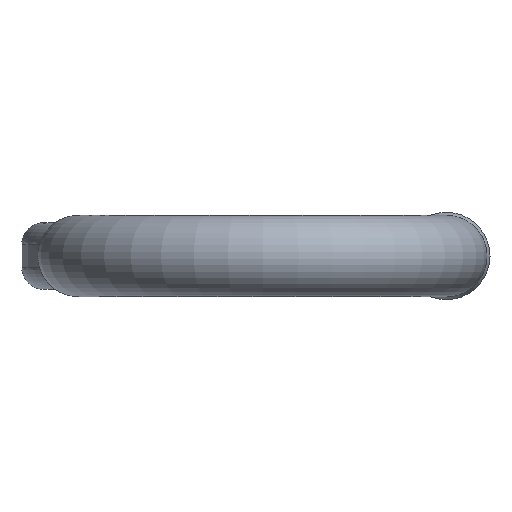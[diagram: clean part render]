
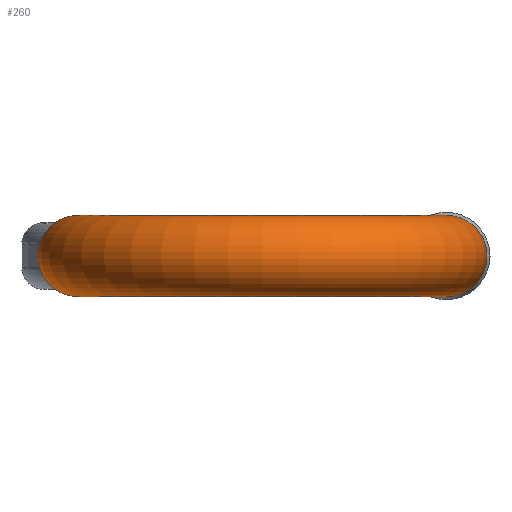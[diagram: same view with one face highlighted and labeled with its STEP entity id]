
A CAD part, front view. The second image highlights one B-rep face of the part: STEP entity #260.
In plain terms, the highlighted toroidal (fillet/blend) face has major radius 38.5 mm and minor radius 8.5 mm.
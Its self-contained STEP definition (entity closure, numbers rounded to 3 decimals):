
#226=TOROIDAL_SURFACE('',#2723,38.5,8.5);
#260=ADVANCED_FACE('',(#843,#844),#226,.T.);
#482=CIRCLE('',#2711,8.5);
#483=CIRCLE('',#2717,8.5);
#843=FACE_BOUND('',#878,.T.);
#844=FACE_BOUND('',#879,.T.);
#878=EDGE_LOOP('',(#1153));
#879=EDGE_LOOP('',(#1154));
#1153=ORIENTED_EDGE('',*,*,#2158,.T.);
#1154=ORIENTED_EDGE('',*,*,#2175,.F.);
#1898=VERTEX_POINT('',#3773);
#1913=VERTEX_POINT('',#3900);
#2158=EDGE_CURVE('',#1898,#1898,#482,.T.);
#2175=EDGE_CURVE('',#1913,#1913,#483,.T.);
#2711=AXIS2_PLACEMENT_3D('',#3772,#2865,#2866);
#2717=AXIS2_PLACEMENT_3D('',#3899,#2879,#2880);
#2723=AXIS2_PLACEMENT_3D('',#3909,#2891,#2892);
#2865=DIRECTION('',(0.,-1.,0.));
#2866=DIRECTION('',(1.,0.,0.));
#2879=DIRECTION('',(0.,1.,0.));
#2880=DIRECTION('',(-1.,0.,0.));
#2891=DIRECTION('',(0.,0.,1.));
#2892=DIRECTION('',(1.,0.,0.));
#3772=CARTESIAN_POINT('',(-38.5,-25.,0.));
#3773=CARTESIAN_POINT('',(-30.,-25.,0.));
#3899=CARTESIAN_POINT('',(38.5,-25.,0.));
#3900=CARTESIAN_POINT('',(30.,-25.,0.));
#3909=CARTESIAN_POINT('',(0.,-25.,0.));
